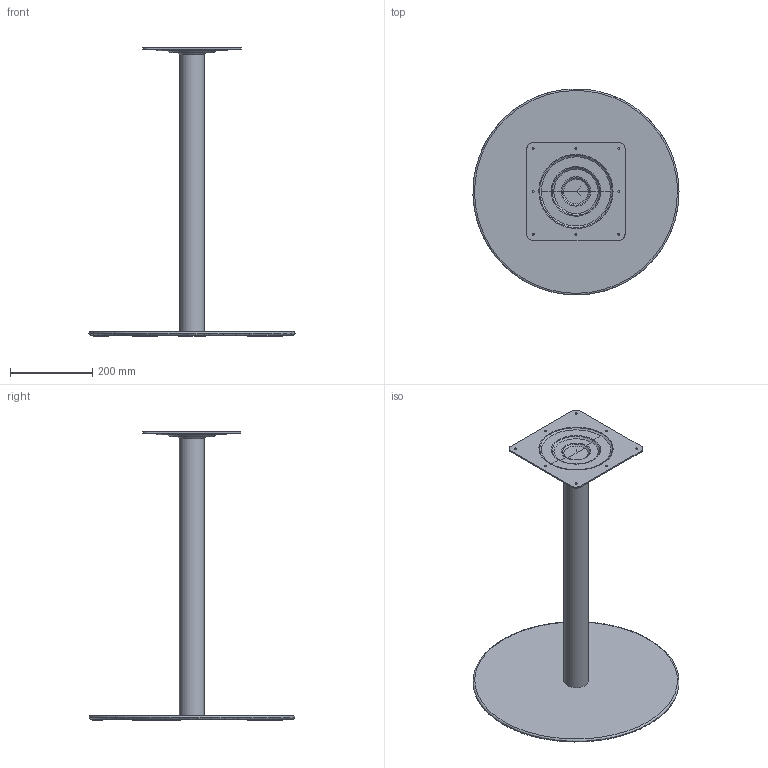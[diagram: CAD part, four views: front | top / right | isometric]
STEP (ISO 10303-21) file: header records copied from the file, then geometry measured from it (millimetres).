
FILE_DESCRIPTION(/* description */ (''),/* implementation_level */ '2;1');
FILE_NAME(/* name */ 'KINOSH~2',/* time_stamp */ '2024-11-15T16:30:30+09:00',/* author */ (''),/* organization */ (''),/* preprocessor_version */ 'ST-DEVELOPER v16.5',/* originating_system */ '',/* authorisation */ '');
FILE_SCHEMA (('AUTOMOTIVE_DESIGN'));
Length unit declared in the file: millimetre
Products named in the file (1): Document
Bounding box: 499.82 x 499.57 x 700 mm (x, y, z)
Volume: 3778087.3 mm3; surface area: 644487.9 mm2
Topology: 1 solids, 1 shells, 103 faces, 234 edges, 139 vertices
Faces by surface type: bspline 94, plane 9
Entity records: 5378 total; most frequent: CARTESIAN_POINT 4084, ORIENTED_EDGE 464, EDGE_CURVE 232, VERTEX_POINT 139, EDGE_LOOP 127, ADVANCED_FACE 103, FACE_OUTER_BOUND 103, B_SPLINE_CURVE_WITH_KNOTS 45
